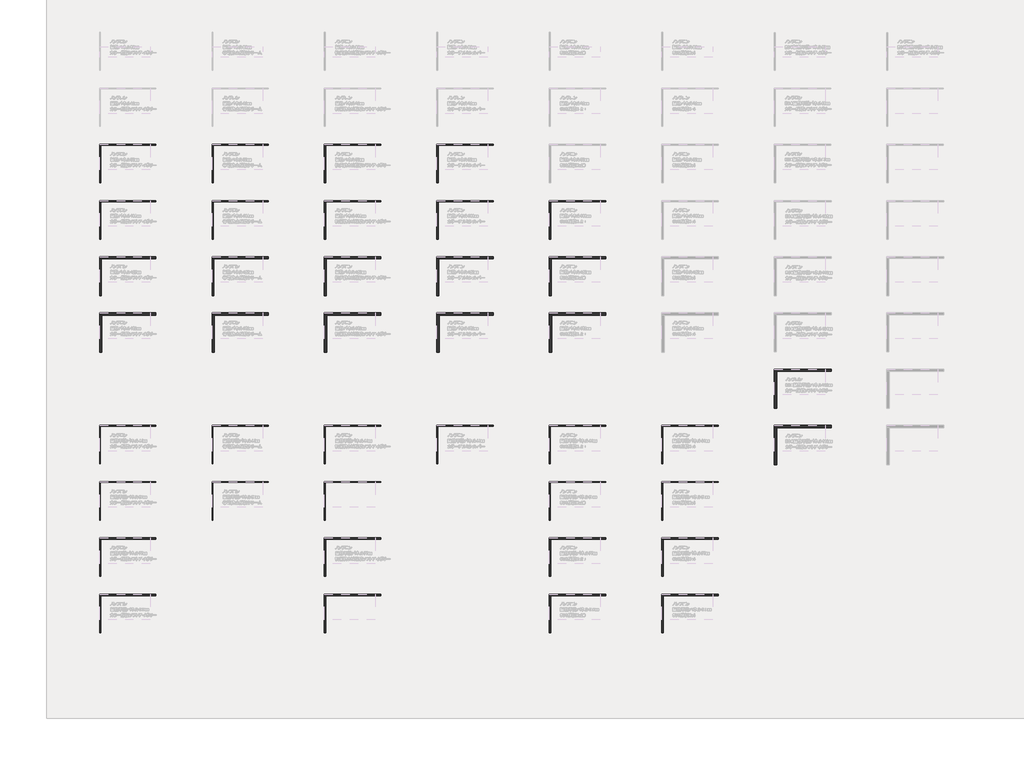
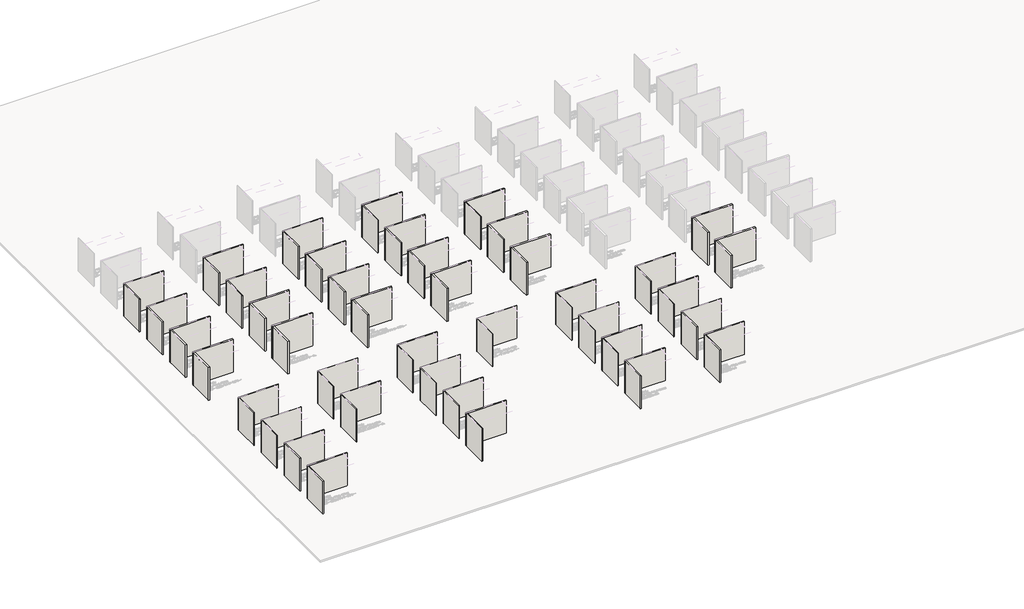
# One storey, part 1 of 117: 80 walls.
"""IFC4 building model written with IfcOpenShell, lengths in millimetres."""

from ifc_helpers import new_model, si_unit, frame, origin, place, context, project, spatial, polyline, outline, extrude, faceted_brep, element, save

model = new_model("IFC4")

# Units and contexts
model_context = context("Model", 3, world=origin())
ifc_project = project(units=[si_unit("LENGTHUNIT", "METRE", prefix="MILLI")], contexts=[model_context])

# Site, building, storey
site = spatial("IfcSite", under=ifc_project)
building = spatial("IfcBuilding", under=site)
storey = spatial("IfcBuildingStorey", under=building, Name="レベル 1", Elevation=500.0)

# Walls
placement = place(None, origin())
element("IfcWall", 1, ObjectType="g-p_断熱パネル(フラット)t77", at=placement, inside=storey, context=model_context, shape_type="Brep", body=[
    faceted_brep([(-24000.0, -77.0, 500.0), (-23923.0, -77.0, 500.0), (-20000.0, -77.0, 500.0), (-20000.0, -77.0, 4000.0), (-23923.0, -77.0, 4000.0), (-24000.0, -77.0, 4000.0), (-24000.0, 0.0, 500.0), (-24000.0, 0.0, 4000.0), (-20000.0, 0.0, 4000.0), (-20000.0, 0.0, 500.0)], [[[0, 1, 2, 3, 4, 5]], [[6, 7, 8, 9]], [[2, 1, 0, 6, 9]], [[3, 2, 9, 8]], [[5, 4, 3, 8, 7]], [[0, 5, 7, 6]]]),
])
element("IfcWall", 2, ObjectType="g-p_断熱パネル(フラット)t77", at=placement, inside=storey, context=model_context, shape_type="SweptSolid", body=[
    extrude(outline(polyline([(-24000.0, -2738.5), (-24000.0, -77.0), (-23923.0, -77.0), (-23923.0, -2738.5), (-24000.0, -2738.5)])), frame((0.0, 0.0, 500.0), z_axis=(0.0, 0.0, 1.0), x_axis=(1.0, 0.0, 0.0)), (0.0, 0.0, 1.0), 3500.0),
])
element("IfcWall", 3, ObjectType="g-p_断熱パネル(フラット)t100", at=placement, inside=storey, context=model_context, shape_type="Brep", body=[
    faceted_brep([(-24000.0, -4100.0, 500.0), (-23900.0, -4100.0, 500.0), (-20000.0, -4100.0, 500.0), (-20000.0, -4100.0, 4000.0), (-23900.0, -4100.0, 4000.0), (-24000.0, -4100.0, 4000.0), (-24000.0, -4000.0, 500.0), (-24000.0, -4000.0, 4000.0), (-20000.0, -4000.0, 4000.0), (-20000.0, -4000.0, 500.0)], [[[0, 1, 2, 3, 4, 5]], [[6, 7, 8, 9]], [[2, 1, 0, 6, 9]], [[3, 2, 9, 8]], [[5, 4, 3, 8, 7]], [[0, 5, 7, 6]]]),
])
element("IfcWall", 4, ObjectType="g-p_断熱パネル(フラット)t100", at=placement, inside=storey, context=model_context, shape_type="SweptSolid", body=[
    extrude(outline(polyline([(-24000.0, -6750.0), (-24000.0, -4100.0), (-23900.0, -4100.0), (-23900.0, -6750.0), (-24000.0, -6750.0)])), frame((0.0, 0.0, 500.0), z_axis=(0.0, 0.0, 1.0), x_axis=(1.0, 0.0, 0.0)), (0.0, 0.0, 1.0), 3500.0),
])
element("IfcWall", 5, ObjectType="g-p_断熱パネル(フラット)t127", at=placement, inside=storey, context=model_context, shape_type="Brep", body=[
    faceted_brep([(-24000.0, -8127.0, 500.0), (-23873.0, -8127.0, 500.0), (-20000.0, -8127.0, 500.0), (-20000.0, -8127.0, 4000.0), (-23873.0, -8127.0, 4000.0), (-24000.0, -8127.0, 4000.0), (-24000.0, -8000.0, 500.0), (-24000.0, -8000.0, 4000.0), (-20000.0, -8000.0, 4000.0), (-20000.0, -8000.0, 500.0)], [[[0, 1, 2, 3, 4, 5]], [[6, 7, 8, 9]], [[2, 1, 0, 6, 9]], [[3, 2, 9, 8]], [[5, 4, 3, 8, 7]], [[0, 5, 7, 6]]]),
])
element("IfcWall", 6, ObjectType="g-p_断熱パネル(フラット)t127", at=placement, inside=storey, context=model_context, shape_type="SweptSolid", body=[
    extrude(outline(polyline([(-24000.0, -10763.5), (-24000.0, -8127.0), (-23873.0, -8127.0), (-23873.0, -10763.5), (-24000.0, -10763.5)])), frame((0.0, 0.0, 500.0), z_axis=(0.0, 0.0, 1.0), x_axis=(1.0, 0.0, 0.0)), (0.0, 0.0, 1.0), 3500.0),
])
element("IfcWall", 7, ObjectType="g-p_断熱パネル(フラット)t152", at=placement, inside=storey, context=model_context, shape_type="Brep", body=[
    faceted_brep([(-24000.0, -12152.0, 500.0), (-23848.0, -12152.0, 500.0), (-20000.0, -12152.0, 500.0), (-20000.0, -12152.0, 4000.0), (-23848.0, -12152.0, 4000.0), (-24000.0, -12152.0, 4000.0), (-24000.0, -12000.0, 500.0), (-24000.0, -12000.0, 4000.0), (-20000.0, -12000.0, 4000.0), (-20000.0, -12000.0, 500.0)], [[[0, 1, 2, 3, 4, 5]], [[6, 7, 8, 9]], [[2, 1, 0, 6, 9]], [[3, 2, 9, 8]], [[5, 4, 3, 8, 7]], [[0, 5, 7, 6]]]),
])
element("IfcWall", 8, ObjectType="g-p_断熱パネル(フラット)t152", at=placement, inside=storey, context=model_context, shape_type="SweptSolid", body=[
    extrude(outline(polyline([(-24000.0, -14776.0), (-24000.0, -12152.0), (-23848.0, -12152.0), (-23848.0, -14776.0), (-24000.0, -14776.0)])), frame((0.0, 0.0, 500.0), z_axis=(0.0, 0.0, 1.0), x_axis=(1.0, 0.0, 0.0)), (0.0, 0.0, 1.0), 3500.0),
])
element("IfcWall", 9, ObjectType="g-p_不燃断熱パネル(フラット)t44", at=placement, inside=storey, context=model_context, shape_type="Brep", body=[
    faceted_brep([(-24000.0, -20044.0, 500.0), (-23956.0, -20044.0, 500.0), (-20000.0, -20044.0, 500.0), (-20000.0, -20044.0, 4000.0), (-23956.0, -20044.0, 4000.0), (-24000.0, -20044.0, 4000.0), (-24000.0, -20000.0, 500.0), (-24000.0, -20000.0, 4000.0), (-20000.0, -20000.0, 4000.0), (-20000.0, -20000.0, 500.0)], [[[0, 1, 2, 3, 4, 5]], [[6, 7, 8, 9]], [[2, 1, 0, 6, 9]], [[3, 2, 9, 8]], [[5, 4, 3, 8, 7]], [[0, 5, 7, 6]]]),
])
element("IfcWall", 10, ObjectType="g-p_不燃断熱パネル(フラット)t44", at=placement, inside=storey, context=model_context, shape_type="SweptSolid", body=[
    extrude(outline(polyline([(-24000.0, -22722.0), (-24000.0, -20044.0), (-23956.0, -20044.0), (-23956.0, -22722.0), (-24000.0, -22722.0)])), frame((0.0, 0.0, 500.0), z_axis=(0.0, 0.0, 1.0), x_axis=(1.0, 0.0, 0.0)), (0.0, 0.0, 1.0), 3500.0),
])
element("IfcWall", 11, ObjectType="g-p_不燃断熱パネル(フラット)t50", at=placement, inside=storey, context=model_context, shape_type="Brep", body=[
    faceted_brep([(-24000.0, -24050.0, 500.0), (-23950.0, -24050.0, 500.0), (-20000.0, -24050.0, 500.0), (-20000.0, -24050.0, 4000.0), (-23950.0, -24050.0, 4000.0), (-24000.0, -24050.0, 4000.0), (-24000.0, -24000.0, 500.0), (-24000.0, -24000.0, 4000.0), (-20000.0, -24000.0, 4000.0), (-20000.0, -24000.0, 500.0)], [[[0, 1, 2, 3, 4, 5]], [[6, 7, 8, 9]], [[2, 1, 0, 6, 9]], [[3, 2, 9, 8]], [[5, 4, 3, 8, 7]], [[0, 5, 7, 6]]]),
])
element("IfcWall", 12, ObjectType="g-p_不燃断熱パネル(フラット)t50", at=placement, inside=storey, context=model_context, shape_type="SweptSolid", body=[
    extrude(outline(polyline([(-24000.0, -26725.0), (-24000.0, -24050.0), (-23950.0, -24050.0), (-23950.0, -26725.0), (-24000.0, -26725.0)])), frame((0.0, 0.0, 500.0), z_axis=(0.0, 0.0, 1.0), x_axis=(1.0, 0.0, 0.0)), (0.0, 0.0, 1.0), 3500.0),
])
element("IfcWall", 13, ObjectType="g-p_不燃断熱パネル(フラット)t77", at=placement, inside=storey, context=model_context, shape_type="Brep", body=[
    faceted_brep([(-24000.0, -28077.0, 500.0), (-23923.0, -28077.0, 500.0), (-20000.0, -28077.0, 500.0), (-20000.0, -28077.0, 4000.0), (-23923.0, -28077.0, 4000.0), (-24000.0, -28077.0, 4000.0), (-24000.0, -28000.0, 500.0), (-24000.0, -28000.0, 4000.0), (-20000.0, -28000.0, 4000.0), (-20000.0, -28000.0, 500.0)], [[[0, 1, 2, 3, 4, 5]], [[6, 7, 8, 9]], [[2, 1, 0, 6, 9]], [[3, 2, 9, 8]], [[5, 4, 3, 8, 7]], [[0, 5, 7, 6]]]),
])
element("IfcWall", 14, ObjectType="g-p_不燃断熱パネル(フラット)t77", at=placement, inside=storey, context=model_context, shape_type="SweptSolid", body=[
    extrude(outline(polyline([(-24000.0, -30738.5), (-24000.0, -28077.0), (-23923.0, -28077.0), (-23923.0, -30738.5), (-24000.0, -30738.5)])), frame((0.0, 0.0, 500.0), z_axis=(0.0, 0.0, 1.0), x_axis=(1.0, 0.0, 0.0)), (0.0, 0.0, 1.0), 3500.0),
])
element("IfcWall", 15, ObjectType="g-p_不燃断熱パネル(フラット)t100", at=placement, inside=storey, context=model_context, shape_type="Brep", body=[
    faceted_brep([(-24000.0, -32100.0, 500.0), (-23900.0, -32100.0, 500.0), (-20000.0, -32100.0, 500.0), (-20000.0, -32100.0, 4000.0), (-23900.0, -32100.0, 4000.0), (-24000.0, -32100.0, 4000.0), (-24000.0, -32000.0, 500.0), (-24000.0, -32000.0, 4000.0), (-20000.0, -32000.0, 4000.0), (-20000.0, -32000.0, 500.0)], [[[0, 1, 2, 3, 4, 5]], [[6, 7, 8, 9]], [[2, 1, 0, 6, 9]], [[3, 2, 9, 8]], [[5, 4, 3, 8, 7]], [[0, 5, 7, 6]]]),
])
element("IfcWall", 16, ObjectType="g-p_不燃断熱パネル(フラット)t100", at=placement, inside=storey, context=model_context, shape_type="SweptSolid", body=[
    extrude(outline(polyline([(-24000.0, -34750.0), (-24000.0, -32100.0), (-23900.0, -32100.0), (-23900.0, -34750.0), (-24000.0, -34750.0)])), frame((0.0, 0.0, 500.0), z_axis=(0.0, 0.0, 1.0), x_axis=(1.0, 0.0, 0.0)), (0.0, 0.0, 1.0), 3500.0),
])
element("IfcWall", 17, ObjectType="g-p_断熱パネル(フラット)t77", at=placement, inside=storey, context=model_context, shape_type="Brep", body=[
    faceted_brep([(-16000.0, -77.0, 500.0), (-15923.0, -77.0, 500.0), (-12000.0, -77.0, 500.0), (-12000.0, -77.0, 4000.0), (-15923.0, -77.0, 4000.0), (-16000.0, -77.0, 4000.0), (-16000.0, 0.0, 500.0), (-16000.0, 0.0, 4000.0), (-12000.0, 0.0, 4000.0), (-12000.0, 0.0, 500.0)], [[[0, 1, 2, 3, 4, 5]], [[6, 7, 8, 9]], [[2, 1, 0, 6, 9]], [[3, 2, 9, 8]], [[5, 4, 3, 8, 7]], [[0, 5, 7, 6]]]),
])
element("IfcWall", 18, ObjectType="g-p_断熱パネル(フラット)t77", at=placement, inside=storey, context=model_context, shape_type="SweptSolid", body=[
    extrude(outline(polyline([(-16000.0, -2738.5), (-16000.0, -77.0), (-15923.0, -77.0), (-15923.0, -2738.5), (-16000.0, -2738.5)])), frame((0.0, 0.0, 500.0), z_axis=(0.0, 0.0, 1.0), x_axis=(1.0, 0.0, 0.0)), (0.0, 0.0, 1.0), 3500.0),
])
element("IfcWall", 19, ObjectType="g-p_断熱パネル(フラット)t100", at=placement, inside=storey, context=model_context, shape_type="Brep", body=[
    faceted_brep([(-16000.0, -4100.0, 500.0), (-15900.0, -4100.0, 500.0), (-12000.0, -4100.0, 500.0), (-12000.0, -4100.0, 4000.0), (-15900.0, -4100.0, 4000.0), (-16000.0, -4100.0, 4000.0), (-16000.0, -4000.0, 500.0), (-16000.0, -4000.0, 4000.0), (-12000.0, -4000.0, 4000.0), (-12000.0, -4000.0, 500.0)], [[[0, 1, 2, 3, 4, 5]], [[6, 7, 8, 9]], [[2, 1, 0, 6, 9]], [[3, 2, 9, 8]], [[5, 4, 3, 8, 7]], [[0, 5, 7, 6]]]),
])
element("IfcWall", 20, ObjectType="g-p_断熱パネル(フラット)t100", at=placement, inside=storey, context=model_context, shape_type="SweptSolid", body=[
    extrude(outline(polyline([(-16000.0, -6750.0), (-16000.0, -4100.0), (-15900.0, -4100.0), (-15900.0, -6750.0), (-16000.0, -6750.0)])), frame((0.0, 0.0, 500.0), z_axis=(0.0, 0.0, 1.0), x_axis=(1.0, 0.0, 0.0)), (0.0, 0.0, 1.0), 3500.0),
])
element("IfcWall", 21, ObjectType="g-p_断熱パネル(フラット)t127", at=placement, inside=storey, context=model_context, shape_type="Brep", body=[
    faceted_brep([(-16000.0, -8127.0, 500.0), (-15873.0, -8127.0, 500.0), (-12000.0, -8127.0, 500.0), (-12000.0, -8127.0, 4000.0), (-15873.0, -8127.0, 4000.0), (-16000.0, -8127.0, 4000.0), (-16000.0, -8000.0, 500.0), (-16000.0, -8000.0, 4000.0), (-12000.0, -8000.0, 4000.0), (-12000.0, -8000.0, 500.0)], [[[0, 1, 2, 3, 4, 5]], [[6, 7, 8, 9]], [[2, 1, 0, 6, 9]], [[3, 2, 9, 8]], [[5, 4, 3, 8, 7]], [[0, 5, 7, 6]]]),
])
element("IfcWall", 22, ObjectType="g-p_断熱パネル(フラット)t127", at=placement, inside=storey, context=model_context, shape_type="SweptSolid", body=[
    extrude(outline(polyline([(-16000.0, -10763.5), (-16000.0, -8127.0), (-15873.0, -8127.0), (-15873.0, -10763.5), (-16000.0, -10763.5)])), frame((0.0, 0.0, 500.0), z_axis=(0.0, 0.0, 1.0), x_axis=(1.0, 0.0, 0.0)), (0.0, 0.0, 1.0), 3500.0),
])
element("IfcWall", 23, ObjectType="g-p_断熱パネル(フラット)t152", at=placement, inside=storey, context=model_context, shape_type="Brep", body=[
    faceted_brep([(-16000.0, -12152.0, 500.0), (-15848.0, -12152.0, 500.0), (-12000.0, -12152.0, 500.0), (-12000.0, -12152.0, 4000.0), (-15848.0, -12152.0, 4000.0), (-16000.0, -12152.0, 4000.0), (-16000.0, -12000.0, 500.0), (-16000.0, -12000.0, 4000.0), (-12000.0, -12000.0, 4000.0), (-12000.0, -12000.0, 500.0)], [[[0, 1, 2, 3, 4, 5]], [[6, 7, 8, 9]], [[2, 1, 0, 6, 9]], [[3, 2, 9, 8]], [[5, 4, 3, 8, 7]], [[0, 5, 7, 6]]]),
])
element("IfcWall", 24, ObjectType="g-p_断熱パネル(フラット)t152", at=placement, inside=storey, context=model_context, shape_type="SweptSolid", body=[
    extrude(outline(polyline([(-16000.0, -14776.0), (-16000.0, -12152.0), (-15848.0, -12152.0), (-15848.0, -14776.0), (-16000.0, -14776.0)])), frame((0.0, 0.0, 500.0), z_axis=(0.0, 0.0, 1.0), x_axis=(1.0, 0.0, 0.0)), (0.0, 0.0, 1.0), 3500.0),
])
element("IfcWall", 25, ObjectType="g-p_不燃断熱パネル(フラット)t44", at=placement, inside=storey, context=model_context, shape_type="Brep", body=[
    faceted_brep([(-16000.0, -20044.0, 500.0), (-15956.0, -20044.0, 500.0), (-12000.0, -20044.0, 500.0), (-12000.0, -20044.0, 4000.0), (-15956.0, -20044.0, 4000.0), (-16000.0, -20044.0, 4000.0), (-16000.0, -20000.0, 500.0), (-16000.0, -20000.0, 4000.0), (-12000.0, -20000.0, 4000.0), (-12000.0, -20000.0, 500.0)], [[[0, 1, 2, 3, 4, 5]], [[6, 7, 8, 9]], [[2, 1, 0, 6, 9]], [[3, 2, 9, 8]], [[5, 4, 3, 8, 7]], [[0, 5, 7, 6]]]),
])
element("IfcWall", 26, ObjectType="g-p_不燃断熱パネル(フラット)t44", at=placement, inside=storey, context=model_context, shape_type="SweptSolid", body=[
    extrude(outline(polyline([(-16000.0, -22722.0), (-16000.0, -20044.0), (-15956.0, -20044.0), (-15956.0, -22722.0), (-16000.0, -22722.0)])), frame((0.0, 0.0, 500.0), z_axis=(0.0, 0.0, 1.0), x_axis=(1.0, 0.0, 0.0)), (0.0, 0.0, 1.0), 3500.0),
])
element("IfcWall", 27, ObjectType="g-p_不燃断熱パネル(フラット)t50", at=placement, inside=storey, context=model_context, shape_type="Brep", body=[
    faceted_brep([(-16000.0, -24050.0, 500.0), (-15950.0, -24050.0, 500.0), (-12000.0, -24050.0, 500.0), (-12000.0, -24050.0, 4000.0), (-15950.0, -24050.0, 4000.0), (-16000.0, -24050.0, 4000.0), (-16000.0, -24000.0, 500.0), (-16000.0, -24000.0, 4000.0), (-12000.0, -24000.0, 4000.0), (-12000.0, -24000.0, 500.0)], [[[0, 1, 2, 3, 4, 5]], [[6, 7, 8, 9]], [[2, 1, 0, 6, 9]], [[3, 2, 9, 8]], [[5, 4, 3, 8, 7]], [[0, 5, 7, 6]]]),
])
element("IfcWall", 28, ObjectType="g-p_不燃断熱パネル(フラット)t50", at=placement, inside=storey, context=model_context, shape_type="SweptSolid", body=[
    extrude(outline(polyline([(-16000.0, -26725.0), (-16000.0, -24050.0), (-15950.0, -24050.0), (-15950.0, -26725.0), (-16000.0, -26725.0)])), frame((0.0, 0.0, 500.0), z_axis=(0.0, 0.0, 1.0), x_axis=(1.0, 0.0, 0.0)), (0.0, 0.0, 1.0), 3500.0),
])
element("IfcWall", 29, ObjectType="g-p_断熱パネル(フラット)t77", at=placement, inside=storey, context=model_context, shape_type="Brep", body=[
    faceted_brep([(-8000.0, -77.0, 500.0), (-7923.0, -77.0, 500.0), (-4000.0, -77.0, 500.0), (-4000.0, -77.0, 4000.0), (-7923.0, -77.0, 4000.0), (-8000.0, -77.0, 4000.0), (-8000.0, 0.0, 500.0), (-8000.0, 0.0, 4000.0), (-4000.0, 0.0, 4000.0), (-4000.0, 0.0, 500.0)], [[[0, 1, 2, 3, 4, 5]], [[6, 7, 8, 9]], [[2, 1, 0, 6, 9]], [[3, 2, 9, 8]], [[5, 4, 3, 8, 7]], [[0, 5, 7, 6]]]),
])
element("IfcWall", 30, ObjectType="g-p_断熱パネル(フラット)t77", at=placement, inside=storey, context=model_context, shape_type="SweptSolid", body=[
    extrude(outline(polyline([(-8000.0, -2738.5), (-8000.0, -77.0), (-7923.0, -77.0), (-7923.0, -2738.5), (-8000.0, -2738.5)])), frame((0.0, 0.0, 500.0), z_axis=(0.0, 0.0, 1.0), x_axis=(1.0, 0.0, 0.0)), (0.0, 0.0, 1.0), 3500.0),
])
element("IfcWall", 31, ObjectType="g-p_断熱パネル(フラット)t100", at=placement, inside=storey, context=model_context, shape_type="Brep", body=[
    faceted_brep([(-8000.0, -4100.0, 500.0), (-7900.0, -4100.0, 500.0), (-4000.0, -4100.0, 500.0), (-4000.0, -4100.0, 4000.0), (-7900.0, -4100.0, 4000.0), (-8000.0, -4100.0, 4000.0), (-8000.0, -4000.0, 500.0), (-8000.0, -4000.0, 4000.0), (-4000.0, -4000.0, 4000.0), (-4000.0, -4000.0, 500.0)], [[[0, 1, 2, 3, 4, 5]], [[6, 7, 8, 9]], [[2, 1, 0, 6, 9]], [[3, 2, 9, 8]], [[5, 4, 3, 8, 7]], [[0, 5, 7, 6]]]),
])
element("IfcWall", 32, ObjectType="g-p_断熱パネル(フラット)t100", at=placement, inside=storey, context=model_context, shape_type="SweptSolid", body=[
    extrude(outline(polyline([(-8000.0, -6750.0), (-8000.0, -4100.0), (-7900.0, -4100.0), (-7900.0, -6750.0), (-8000.0, -6750.0)])), frame((0.0, 0.0, 500.0), z_axis=(0.0, 0.0, 1.0), x_axis=(1.0, 0.0, 0.0)), (0.0, 0.0, 1.0), 3500.0),
])
element("IfcWall", 33, ObjectType="g-p_断熱パネル(フラット)t127", at=placement, inside=storey, context=model_context, shape_type="Brep", body=[
    faceted_brep([(-8000.0, -8127.0, 500.0), (-7873.0, -8127.0, 500.0), (-4000.0, -8127.0, 500.0), (-4000.0, -8127.0, 4000.0), (-7873.0, -8127.0, 4000.0), (-8000.0, -8127.0, 4000.0), (-8000.0, -8000.0, 500.0), (-8000.0, -8000.0, 4000.0), (-4000.0, -8000.0, 4000.0), (-4000.0, -8000.0, 500.0)], [[[0, 1, 2, 3, 4, 5]], [[6, 7, 8, 9]], [[2, 1, 0, 6, 9]], [[3, 2, 9, 8]], [[5, 4, 3, 8, 7]], [[0, 5, 7, 6]]]),
])
element("IfcWall", 34, ObjectType="g-p_断熱パネル(フラット)t127", at=placement, inside=storey, context=model_context, shape_type="SweptSolid", body=[
    extrude(outline(polyline([(-8000.0, -10763.5), (-8000.0, -8127.0), (-7873.0, -8127.0), (-7873.0, -10763.5), (-8000.0, -10763.5)])), frame((0.0, 0.0, 500.0), z_axis=(0.0, 0.0, 1.0), x_axis=(1.0, 0.0, 0.0)), (0.0, 0.0, 1.0), 3500.0),
])
element("IfcWall", 35, ObjectType="g-p_断熱パネル(フラット)t152", at=placement, inside=storey, context=model_context, shape_type="Brep", body=[
    faceted_brep([(-8000.0, -12152.0, 500.0), (-7848.0, -12152.0, 500.0), (-4000.0, -12152.0, 500.0), (-4000.0, -12152.0, 4000.0), (-7848.0, -12152.0, 4000.0), (-8000.0, -12152.0, 4000.0), (-8000.0, -12000.0, 500.0), (-8000.0, -12000.0, 4000.0), (-4000.0, -12000.0, 4000.0), (-4000.0, -12000.0, 500.0)], [[[0, 1, 2, 3, 4, 5]], [[6, 7, 8, 9]], [[2, 1, 0, 6, 9]], [[3, 2, 9, 8]], [[5, 4, 3, 8, 7]], [[0, 5, 7, 6]]]),
])
element("IfcWall", 36, ObjectType="g-p_断熱パネル(フラット)t152", at=placement, inside=storey, context=model_context, shape_type="SweptSolid", body=[
    extrude(outline(polyline([(-8000.0, -14776.0), (-8000.0, -12152.0), (-7848.0, -12152.0), (-7848.0, -14776.0), (-8000.0, -14776.0)])), frame((0.0, 0.0, 500.0), z_axis=(0.0, 0.0, 1.0), x_axis=(1.0, 0.0, 0.0)), (0.0, 0.0, 1.0), 3500.0),
])
element("IfcWall", 37, ObjectType="g-p_不燃断熱パネル(フラット)t44", at=placement, inside=storey, context=model_context, shape_type="Brep", body=[
    faceted_brep([(-8000.0, -20044.0, 500.0), (-7956.0, -20044.0, 500.0), (-4000.0, -20044.0, 500.0), (-4000.0, -20044.0, 4000.0), (-7956.0, -20044.0, 4000.0), (-8000.0, -20044.0, 4000.0), (-8000.0, -20000.0, 500.0), (-8000.0, -20000.0, 4000.0), (-4000.0, -20000.0, 4000.0), (-4000.0, -20000.0, 500.0)], [[[0, 1, 2, 3, 4, 5]], [[6, 7, 8, 9]], [[2, 1, 0, 6, 9]], [[3, 2, 9, 8]], [[5, 4, 3, 8, 7]], [[0, 5, 7, 6]]]),
])
element("IfcWall", 38, ObjectType="g-p_不燃断熱パネル(フラット)t44", at=placement, inside=storey, context=model_context, shape_type="SweptSolid", body=[
    extrude(outline(polyline([(-8000.0, -22722.0), (-8000.0, -20044.0), (-7956.0, -20044.0), (-7956.0, -22722.0), (-8000.0, -22722.0)])), frame((0.0, 0.0, 500.0), z_axis=(0.0, 0.0, 1.0), x_axis=(1.0, 0.0, 0.0)), (0.0, 0.0, 1.0), 3500.0),
])
element("IfcWall", 39, ObjectType="g-p_不燃断熱パネル(フラット)t50", at=placement, inside=storey, context=model_context, shape_type="Brep", body=[
    faceted_brep([(-8000.0, -24050.0, 500.0), (-7950.0, -24050.0, 500.0), (-4000.0, -24050.0, 500.0), (-4000.0, -24050.0, 4000.0), (-7950.0, -24050.0, 4000.0), (-8000.0, -24050.0, 4000.0), (-8000.0, -24000.0, 500.0), (-8000.0, -24000.0, 4000.0), (-4000.0, -24000.0, 4000.0), (-4000.0, -24000.0, 500.0)], [[[0, 1, 2, 3, 4, 5]], [[6, 7, 8, 9]], [[2, 1, 0, 6, 9]], [[3, 2, 9, 8]], [[5, 4, 3, 8, 7]], [[0, 5, 7, 6]]]),
])
element("IfcWall", 40, ObjectType="g-p_不燃断熱パネル(フラット)t50", at=placement, inside=storey, context=model_context, shape_type="SweptSolid", body=[
    extrude(outline(polyline([(-8000.0, -26725.0), (-8000.0, -24050.0), (-7950.0, -24050.0), (-7950.0, -26725.0), (-8000.0, -26725.0)])), frame((0.0, 0.0, 500.0), z_axis=(0.0, 0.0, 1.0), x_axis=(1.0, 0.0, 0.0)), (0.0, 0.0, 1.0), 3500.0),
])
element("IfcWall", 41, ObjectType="g-p_不燃断熱パネル(フラット)t77", at=placement, inside=storey, context=model_context, shape_type="Brep", body=[
    faceted_brep([(-8000.0, -28077.0, 500.0), (-7923.0, -28077.0, 500.0), (-4000.0, -28077.0, 500.0), (-4000.0, -28077.0, 4000.0), (-7923.0, -28077.0, 4000.0), (-8000.0, -28077.0, 4000.0), (-8000.0, -28000.0, 500.0), (-8000.0, -28000.0, 4000.0), (-4000.0, -28000.0, 4000.0), (-4000.0, -28000.0, 500.0)], [[[0, 1, 2, 3, 4, 5]], [[6, 7, 8, 9]], [[2, 1, 0, 6, 9]], [[3, 2, 9, 8]], [[5, 4, 3, 8, 7]], [[0, 5, 7, 6]]]),
])
element("IfcWall", 42, ObjectType="g-p_不燃断熱パネル(フラット)t77", at=placement, inside=storey, context=model_context, shape_type="SweptSolid", body=[
    extrude(outline(polyline([(-8000.0, -30738.5), (-8000.0, -28077.0), (-7923.0, -28077.0), (-7923.0, -30738.5), (-8000.0, -30738.5)])), frame((0.0, 0.0, 500.0), z_axis=(0.0, 0.0, 1.0), x_axis=(1.0, 0.0, 0.0)), (0.0, 0.0, 1.0), 3500.0),
])
element("IfcWall", 43, ObjectType="g-p_不燃断熱パネル(フラット)t100", at=placement, inside=storey, context=model_context, shape_type="Brep", body=[
    faceted_brep([(-8000.0, -32100.0, 500.0), (-7900.0, -32100.0, 500.0), (-4000.0, -32100.0, 500.0), (-4000.0, -32100.0, 4000.0), (-7900.0, -32100.0, 4000.0), (-8000.0, -32100.0, 4000.0), (-8000.0, -32000.0, 500.0), (-8000.0, -32000.0, 4000.0), (-4000.0, -32000.0, 4000.0), (-4000.0, -32000.0, 500.0)], [[[0, 1, 2, 3, 4, 5]], [[6, 7, 8, 9]], [[2, 1, 0, 6, 9]], [[3, 2, 9, 8]], [[5, 4, 3, 8, 7]], [[0, 5, 7, 6]]]),
])
element("IfcWall", 44, ObjectType="g-p_不燃断熱パネル(フラット)t100", at=placement, inside=storey, context=model_context, shape_type="SweptSolid", body=[
    extrude(outline(polyline([(-8000.0, -34750.0), (-8000.0, -32100.0), (-7900.0, -32100.0), (-7900.0, -34750.0), (-8000.0, -34750.0)])), frame((0.0, 0.0, 500.0), z_axis=(0.0, 0.0, 1.0), x_axis=(1.0, 0.0, 0.0)), (0.0, 0.0, 1.0), 3500.0),
])
element("IfcWall", 45, ObjectType="g-p_断熱パネル(フラット)t77", at=placement, inside=storey, context=model_context, shape_type="Brep", body=[
    faceted_brep([(0.0, -77.0, 500.0), (77.0, -77.0, 500.0), (4000.0, -77.0, 500.0), (4000.0, -77.0, 4000.0), (77.0, -77.0, 4000.0), (0.0, -77.0, 4000.0), (0.0, 0.0, 500.0), (0.0, 0.0, 4000.0), (4000.0, 0.0, 4000.0), (4000.0, 0.0, 500.0)], [[[0, 1, 2, 3, 4, 5]], [[6, 7, 8, 9]], [[2, 1, 0, 6, 9]], [[3, 2, 9, 8]], [[5, 4, 3, 8, 7]], [[0, 5, 7, 6]]]),
])
element("IfcWall", 46, ObjectType="g-p_断熱パネル(フラット)t77", at=placement, inside=storey, context=model_context, shape_type="SweptSolid", body=[
    extrude(outline(polyline([(0.0, -2738.5), (0.0, -77.0), (77.0, -77.0), (77.0, -2738.5), (0.0, -2738.5)])), frame((0.0, 0.0, 500.0), z_axis=(0.0, 0.0, 1.0), x_axis=(1.0, 0.0, 0.0)), (0.0, 0.0, 1.0), 3500.0),
])
element("IfcWall", 47, ObjectType="g-p_断熱パネル(フラット)t100", at=placement, inside=storey, context=model_context, shape_type="Brep", body=[
    faceted_brep([(0.0, -4100.0, 500.0), (100.0, -4100.0, 500.0), (4000.0, -4100.0, 500.0), (4000.0, -4100.0, 4000.0), (100.0, -4100.0, 4000.0), (0.0, -4100.0, 4000.0), (0.0, -4000.0, 500.0), (0.0, -4000.0, 4000.0), (4000.0, -4000.0, 4000.0), (4000.0, -4000.0, 500.0)], [[[0, 1, 2, 3, 4, 5]], [[6, 7, 8, 9]], [[2, 1, 0, 6, 9]], [[3, 2, 9, 8]], [[5, 4, 3, 8, 7]], [[0, 5, 7, 6]]]),
])
element("IfcWall", 48, ObjectType="g-p_断熱パネル(フラット)t100", at=placement, inside=storey, context=model_context, shape_type="SweptSolid", body=[
    extrude(outline(polyline([(0.0, -6750.0), (0.0, -4100.0), (100.0, -4100.0), (100.0, -6750.0), (0.0, -6750.0)])), frame((0.0, 0.0, 500.0), z_axis=(0.0, 0.0, 1.0), x_axis=(1.0, 0.0, 0.0)), (0.0, 0.0, 1.0), 3500.0),
])
element("IfcWall", 49, ObjectType="g-p_断熱パネル(フラット)t127", at=placement, inside=storey, context=model_context, shape_type="Brep", body=[
    faceted_brep([(0.0, -8127.0, 500.0), (127.0, -8127.0, 500.0), (4000.0, -8127.0, 500.0), (4000.0, -8127.0, 4000.0), (127.0, -8127.0, 4000.0), (0.0, -8127.0, 4000.0), (0.0, -8000.0, 500.0), (0.0, -8000.0, 4000.0), (4000.0, -8000.0, 4000.0), (4000.0, -8000.0, 500.0)], [[[0, 1, 2, 3, 4, 5]], [[6, 7, 8, 9]], [[2, 1, 0, 6, 9]], [[3, 2, 9, 8]], [[5, 4, 3, 8, 7]], [[0, 5, 7, 6]]]),
])
element("IfcWall", 50, ObjectType="g-p_断熱パネル(フラット)t127", at=placement, inside=storey, context=model_context, shape_type="SweptSolid", body=[
    extrude(outline(polyline([(0.0, -10763.5), (0.0, -8127.0), (127.0, -8127.0), (127.0, -10763.5), (0.0, -10763.5)])), frame((0.0, 0.0, 500.0), z_axis=(0.0, 0.0, 1.0), x_axis=(1.0, 0.0, 0.0)), (0.0, 0.0, 1.0), 3500.0),
])
element("IfcWall", 51, ObjectType="g-p_断熱パネル(フラット)t152", at=placement, inside=storey, context=model_context, shape_type="Brep", body=[
    faceted_brep([(0.0, -12152.0, 500.0), (152.0, -12152.0, 500.0), (4000.0, -12152.0, 500.0), (4000.0, -12152.0, 4000.0), (152.0, -12152.0, 4000.0), (0.0, -12152.0, 4000.0), (0.0, -12000.0, 500.0), (0.0, -12000.0, 4000.0), (4000.0, -12000.0, 4000.0), (4000.0, -12000.0, 500.0)], [[[0, 1, 2, 3, 4, 5]], [[6, 7, 8, 9]], [[2, 1, 0, 6, 9]], [[3, 2, 9, 8]], [[5, 4, 3, 8, 7]], [[0, 5, 7, 6]]]),
])
element("IfcWall", 52, ObjectType="g-p_断熱パネル(フラット)t152", at=placement, inside=storey, context=model_context, shape_type="SweptSolid", body=[
    extrude(outline(polyline([(0.0, -14776.0), (0.0, -12152.0), (152.0, -12152.0), (152.0, -14776.0), (0.0, -14776.0)])), frame((0.0, 0.0, 500.0), z_axis=(0.0, 0.0, 1.0), x_axis=(1.0, 0.0, 0.0)), (0.0, 0.0, 1.0), 3500.0),
])
element("IfcWall", 53, ObjectType="g-p_不燃断熱パネル(フラット)t44", at=placement, inside=storey, context=model_context, shape_type="Brep", body=[
    faceted_brep([(0.0, -20044.0, 500.0), (44.0, -20044.0, 500.0), (4000.0, -20044.0, 500.0), (4000.0, -20044.0, 4000.0), (44.0, -20044.0, 4000.0), (0.0, -20044.0, 4000.0), (0.0, -20000.0, 500.0), (0.0, -20000.0, 4000.0), (4000.0, -20000.0, 4000.0), (4000.0, -20000.0, 500.0)], [[[0, 1, 2, 3, 4, 5]], [[6, 7, 8, 9]], [[2, 1, 0, 6, 9]], [[3, 2, 9, 8]], [[5, 4, 3, 8, 7]], [[0, 5, 7, 6]]]),
])
element("IfcWall", 54, ObjectType="g-p_不燃断熱パネル(フラット)t44", at=placement, inside=storey, context=model_context, shape_type="SweptSolid", body=[
    extrude(outline(polyline([(0.0, -22722.0), (0.0, -20044.0), (44.0, -20044.0), (44.0, -22722.0), (0.0, -22722.0)])), frame((0.0, 0.0, 500.0), z_axis=(0.0, 0.0, 1.0), x_axis=(1.0, 0.0, 0.0)), (0.0, 0.0, 1.0), 3500.0),
])
element("IfcWall", 55, ObjectType="g-p_断熱パネル(フラット)t100", at=placement, inside=storey, context=model_context, shape_type="Brep", body=[
    faceted_brep([(8000.0, -4100.0, 500.0), (8100.0, -4100.0, 500.0), (12000.0, -4100.0, 500.0), (12000.0, -4100.0, 4000.0), (8100.0, -4100.0, 4000.0), (8000.0, -4100.0, 4000.0), (8000.0, -4000.0, 500.0), (8000.0, -4000.0, 4000.0), (12000.0, -4000.0, 4000.0), (12000.0, -4000.0, 500.0)], [[[0, 1, 2, 3, 4, 5]], [[6, 7, 8, 9]], [[2, 1, 0, 6, 9]], [[3, 2, 9, 8]], [[5, 4, 3, 8, 7]], [[0, 5, 7, 6]]]),
])
element("IfcWall", 56, ObjectType="g-p_断熱パネル(フラット)t100", at=placement, inside=storey, context=model_context, shape_type="SweptSolid", body=[
    extrude(outline(polyline([(8000.0, -6750.0), (8000.0, -4100.0), (8100.0, -4100.0), (8100.0, -6750.0), (8000.0, -6750.0)])), frame((0.0, 0.0, 500.0), z_axis=(0.0, 0.0, 1.0), x_axis=(1.0, 0.0, 0.0)), (0.0, 0.0, 1.0), 3500.0),
])
element("IfcWall", 57, ObjectType="g-p_断熱パネル(フラット)t127", at=placement, inside=storey, context=model_context, shape_type="Brep", body=[
    faceted_brep([(8000.0, -8127.0, 500.0), (8127.0, -8127.0, 500.0), (12000.0, -8127.0, 500.0), (12000.0, -8127.0, 4000.0), (8127.0, -8127.0, 4000.0), (8000.0, -8127.0, 4000.0), (8000.0, -8000.0, 500.0), (8000.0, -8000.0, 4000.0), (12000.0, -8000.0, 4000.0), (12000.0, -8000.0, 500.0)], [[[0, 1, 2, 3, 4, 5]], [[6, 7, 8, 9]], [[2, 1, 0, 6, 9]], [[3, 2, 9, 8]], [[5, 4, 3, 8, 7]], [[0, 5, 7, 6]]]),
])
element("IfcWall", 58, ObjectType="g-p_断熱パネル(フラット)t127", at=placement, inside=storey, context=model_context, shape_type="SweptSolid", body=[
    extrude(outline(polyline([(8000.0, -10763.5), (8000.0, -8127.0), (8127.0, -8127.0), (8127.0, -10763.5), (8000.0, -10763.5)])), frame((0.0, 0.0, 500.0), z_axis=(0.0, 0.0, 1.0), x_axis=(1.0, 0.0, 0.0)), (0.0, 0.0, 1.0), 3500.0),
])
element("IfcWall", 59, ObjectType="g-p_断熱パネル(フラット)t152", at=placement, inside=storey, context=model_context, shape_type="Brep", body=[
    faceted_brep([(8000.0, -12152.0, 500.0), (8152.0, -12152.0, 500.0), (12000.0, -12152.0, 500.0), (12000.0, -12152.0, 4000.0), (8152.0, -12152.0, 4000.0), (8000.0, -12152.0, 4000.0), (8000.0, -12000.0, 500.0), (8000.0, -12000.0, 4000.0), (12000.0, -12000.0, 4000.0), (12000.0, -12000.0, 500.0)], [[[0, 1, 2, 3, 4, 5]], [[6, 7, 8, 9]], [[2, 1, 0, 6, 9]], [[3, 2, 9, 8]], [[5, 4, 3, 8, 7]], [[0, 5, 7, 6]]]),
])
element("IfcWall", 60, ObjectType="g-p_断熱パネル(フラット)t152", at=placement, inside=storey, context=model_context, shape_type="SweptSolid", body=[
    extrude(outline(polyline([(8000.0, -14776.0), (8000.0, -12152.0), (8152.0, -12152.0), (8152.0, -14776.0), (8000.0, -14776.0)])), frame((0.0, 0.0, 500.0), z_axis=(0.0, 0.0, 1.0), x_axis=(1.0, 0.0, 0.0)), (0.0, 0.0, 1.0), 3500.0),
])
element("IfcWall", 61, ObjectType="g-p_不燃断熱パネル(フラット)t44", at=placement, inside=storey, context=model_context, shape_type="Brep", body=[
    faceted_brep([(8000.0, -20044.0, 500.0), (8044.0, -20044.0, 500.0), (12000.0, -20044.0, 500.0), (12000.0, -20044.0, 4000.0), (8044.0, -20044.0, 4000.0), (8000.0, -20044.0, 4000.0), (8000.0, -20000.0, 500.0), (8000.0, -20000.0, 4000.0), (12000.0, -20000.0, 4000.0), (12000.0, -20000.0, 500.0)], [[[0, 1, 2, 3, 4, 5]], [[6, 7, 8, 9]], [[2, 1, 0, 6, 9]], [[3, 2, 9, 8]], [[5, 4, 3, 8, 7]], [[0, 5, 7, 6]]]),
])
element("IfcWall", 62, ObjectType="g-p_不燃断熱パネル(フラット)t44", at=placement, inside=storey, context=model_context, shape_type="SweptSolid", body=[
    extrude(outline(polyline([(8000.0, -22722.0), (8000.0, -20044.0), (8044.0, -20044.0), (8044.0, -22722.0), (8000.0, -22722.0)])), frame((0.0, 0.0, 500.0), z_axis=(0.0, 0.0, 1.0), x_axis=(1.0, 0.0, 0.0)), (0.0, 0.0, 1.0), 3500.0),
])
element("IfcWall", 63, ObjectType="g-p_不燃断熱パネル(フラット)t50", at=placement, inside=storey, context=model_context, shape_type="Brep", body=[
    faceted_brep([(8000.0, -24050.0, 500.0), (8050.0, -24050.0, 500.0), (12000.0, -24050.0, 500.0), (12000.0, -24050.0, 4000.0), (8050.0, -24050.0, 4000.0), (8000.0, -24050.0, 4000.0), (8000.0, -24000.0, 500.0), (8000.0, -24000.0, 4000.0), (12000.0, -24000.0, 4000.0), (12000.0, -24000.0, 500.0)], [[[0, 1, 2, 3, 4, 5]], [[6, 7, 8, 9]], [[2, 1, 0, 6, 9]], [[3, 2, 9, 8]], [[5, 4, 3, 8, 7]], [[0, 5, 7, 6]]]),
])
element("IfcWall", 64, ObjectType="g-p_不燃断熱パネル(フラット)t50", at=placement, inside=storey, context=model_context, shape_type="SweptSolid", body=[
    extrude(outline(polyline([(8000.0, -26725.0), (8000.0, -24050.0), (8050.0, -24050.0), (8050.0, -26725.0), (8000.0, -26725.0)])), frame((0.0, 0.0, 500.0), z_axis=(0.0, 0.0, 1.0), x_axis=(1.0, 0.0, 0.0)), (0.0, 0.0, 1.0), 3500.0),
])
element("IfcWall", 65, ObjectType="g-p_不燃断熱パネル(フラット)t77", at=placement, inside=storey, context=model_context, shape_type="Brep", body=[
    faceted_brep([(8000.0, -28077.0, 500.0), (8077.0, -28077.0, 500.0), (12000.0, -28077.0, 500.0), (12000.0, -28077.0, 4000.0), (8077.0, -28077.0, 4000.0), (8000.0, -28077.0, 4000.0), (8000.0, -28000.0, 500.0), (8000.0, -28000.0, 4000.0), (12000.0, -28000.0, 4000.0), (12000.0, -28000.0, 500.0)], [[[0, 1, 2, 3, 4, 5]], [[6, 7, 8, 9]], [[2, 1, 0, 6, 9]], [[3, 2, 9, 8]], [[5, 4, 3, 8, 7]], [[0, 5, 7, 6]]]),
])
element("IfcWall", 66, ObjectType="g-p_不燃断熱パネル(フラット)t77", at=placement, inside=storey, context=model_context, shape_type="SweptSolid", body=[
    extrude(outline(polyline([(8000.0, -30738.5), (8000.0, -28077.0), (8077.0, -28077.0), (8077.0, -30738.5), (8000.0, -30738.5)])), frame((0.0, 0.0, 500.0), z_axis=(0.0, 0.0, 1.0), x_axis=(1.0, 0.0, 0.0)), (0.0, 0.0, 1.0), 3500.0),
])
element("IfcWall", 67, ObjectType="g-p_不燃断熱パネル(フラット)t100", at=placement, inside=storey, context=model_context, shape_type="Brep", body=[
    faceted_brep([(8000.0, -32100.0, 500.0), (8100.0, -32100.0, 500.0), (12000.0, -32100.0, 500.0), (12000.0, -32100.0, 4000.0), (8100.0, -32100.0, 4000.0), (8000.0, -32100.0, 4000.0), (8000.0, -32000.0, 500.0), (8000.0, -32000.0, 4000.0), (12000.0, -32000.0, 4000.0), (12000.0, -32000.0, 500.0)], [[[0, 1, 2, 3, 4, 5]], [[6, 7, 8, 9]], [[2, 1, 0, 6, 9]], [[3, 2, 9, 8]], [[5, 4, 3, 8, 7]], [[0, 5, 7, 6]]]),
])
element("IfcWall", 68, ObjectType="g-p_不燃断熱パネル(フラット)t100", at=placement, inside=storey, context=model_context, shape_type="SweptSolid", body=[
    extrude(outline(polyline([(8000.0, -34750.0), (8000.0, -32100.0), (8100.0, -32100.0), (8100.0, -34750.0), (8000.0, -34750.0)])), frame((0.0, 0.0, 500.0), z_axis=(0.0, 0.0, 1.0), x_axis=(1.0, 0.0, 0.0)), (0.0, 0.0, 1.0), 3500.0),
])
element("IfcWall", 69, ObjectType="g-p_不燃断熱パネル(フラット)t44", at=placement, inside=storey, context=model_context, shape_type="Brep", body=[
    faceted_brep([(16000.0, -20044.0, 500.0), (16044.0, -20044.0, 500.0), (20000.0, -20044.0, 500.0), (20000.0, -20044.0, 4000.0), (16044.0, -20044.0, 4000.0), (16000.0, -20044.0, 4000.0), (16000.0, -20000.0, 500.0), (16000.0, -20000.0, 4000.0), (20000.0, -20000.0, 4000.0), (20000.0, -20000.0, 500.0)], [[[0, 1, 2, 3, 4, 5]], [[6, 7, 8, 9]], [[2, 1, 0, 6, 9]], [[3, 2, 9, 8]], [[5, 4, 3, 8, 7]], [[0, 5, 7, 6]]]),
])
element("IfcWall", 70, ObjectType="g-p_不燃断熱パネル(フラット)t44", at=placement, inside=storey, context=model_context, shape_type="SweptSolid", body=[
    extrude(outline(polyline([(16000.0, -22722.0), (16000.0, -20044.0), (16044.0, -20044.0), (16044.0, -22722.0), (16000.0, -22722.0)])), frame((0.0, 0.0, 500.0), z_axis=(0.0, 0.0, 1.0), x_axis=(1.0, 0.0, 0.0)), (0.0, 0.0, 1.0), 3500.0),
])
element("IfcWall", 71, ObjectType="g-p_不燃断熱パネル(フラット)t50", at=placement, inside=storey, context=model_context, shape_type="Brep", body=[
    faceted_brep([(16000.0, -24050.0, 500.0), (16050.0, -24050.0, 500.0), (20000.0, -24050.0, 500.0), (20000.0, -24050.0, 4000.0), (16050.0, -24050.0, 4000.0), (16000.0, -24050.0, 4000.0), (16000.0, -24000.0, 500.0), (16000.0, -24000.0, 4000.0), (20000.0, -24000.0, 4000.0), (20000.0, -24000.0, 500.0)], [[[0, 1, 2, 3, 4, 5]], [[6, 7, 8, 9]], [[2, 1, 0, 6, 9]], [[3, 2, 9, 8]], [[5, 4, 3, 8, 7]], [[0, 5, 7, 6]]]),
])
element("IfcWall", 72, ObjectType="g-p_不燃断熱パネル(フラット)t50", at=placement, inside=storey, context=model_context, shape_type="SweptSolid", body=[
    extrude(outline(polyline([(16000.0, -26725.0), (16000.0, -24050.0), (16050.0, -24050.0), (16050.0, -26725.0), (16000.0, -26725.0)])), frame((0.0, 0.0, 500.0), z_axis=(0.0, 0.0, 1.0), x_axis=(1.0, 0.0, 0.0)), (0.0, 0.0, 1.0), 3500.0),
])
element("IfcWall", 73, ObjectType="g-p_不燃断熱パネル(フラット)t77", at=placement, inside=storey, context=model_context, shape_type="Brep", body=[
    faceted_brep([(16000.0, -28077.0, 500.0), (16077.0, -28077.0, 500.0), (20000.0, -28077.0, 500.0), (20000.0, -28077.0, 4000.0), (16077.0, -28077.0, 4000.0), (16000.0, -28077.0, 4000.0), (16000.0, -28000.0, 500.0), (16000.0, -28000.0, 4000.0), (20000.0, -28000.0, 4000.0), (20000.0, -28000.0, 500.0)], [[[0, 1, 2, 3, 4, 5]], [[6, 7, 8, 9]], [[2, 1, 0, 6, 9]], [[3, 2, 9, 8]], [[5, 4, 3, 8, 7]], [[0, 5, 7, 6]]]),
])
element("IfcWall", 74, ObjectType="g-p_不燃断熱パネル(フラット)t77", at=placement, inside=storey, context=model_context, shape_type="SweptSolid", body=[
    extrude(outline(polyline([(16000.0, -30738.5), (16000.0, -28077.0), (16077.0, -28077.0), (16077.0, -30738.5), (16000.0, -30738.5)])), frame((0.0, 0.0, 500.0), z_axis=(0.0, 0.0, 1.0), x_axis=(1.0, 0.0, 0.0)), (0.0, 0.0, 1.0), 3500.0),
])
element("IfcWall", 75, ObjectType="g-p_不燃断熱パネル(フラット)t100", at=placement, inside=storey, context=model_context, shape_type="Brep", body=[
    faceted_brep([(16000.0, -32100.0, 500.0), (16100.0, -32100.0, 500.0), (20000.0, -32100.0, 500.0), (20000.0, -32100.0, 4000.0), (16100.0, -32100.0, 4000.0), (16000.0, -32100.0, 4000.0), (16000.0, -32000.0, 500.0), (16000.0, -32000.0, 4000.0), (20000.0, -32000.0, 4000.0), (20000.0, -32000.0, 500.0)], [[[0, 1, 2, 3, 4, 5]], [[6, 7, 8, 9]], [[2, 1, 0, 6, 9]], [[3, 2, 9, 8]], [[5, 4, 3, 8, 7]], [[0, 5, 7, 6]]]),
])
element("IfcWall", 76, ObjectType="g-p_不燃断熱パネル(フラット)t100", at=placement, inside=storey, context=model_context, shape_type="SweptSolid", body=[
    extrude(outline(polyline([(16000.0, -34750.0), (16000.0, -32100.0), (16100.0, -32100.0), (16100.0, -34750.0), (16000.0, -34750.0)])), frame((0.0, 0.0, 500.0), z_axis=(0.0, 0.0, 1.0), x_axis=(1.0, 0.0, 0.0)), (0.0, 0.0, 1.0), 3500.0),
])
element("IfcWall", 77, ObjectType="g-p_ECO不燃断熱パネル(フラット)t152", at=placement, inside=storey, context=model_context, shape_type="Brep", body=[
    faceted_brep([(24000.0, -16152.0, 500.0), (24152.0, -16152.0, 500.0), (28026.0, -16152.0, 500.0), (28026.0, -16152.0, 4000.0), (24152.0, -16152.0, 4000.0), (24000.0, -16152.0, 4000.0), (24000.0, -16000.0, 500.0), (24000.0, -16000.0, 4000.0), (28026.0, -16000.0, 4000.0), (28026.0, -16000.0, 500.0)], [[[0, 1, 2, 3, 4, 5]], [[6, 7, 8, 9]], [[2, 1, 0, 6, 9]], [[3, 2, 9, 8]], [[5, 4, 3, 8, 7]], [[0, 5, 7, 6]]]),
])
element("IfcWall", 78, ObjectType="g-p_ECO不燃断熱パネル(フラット)t152", at=placement, inside=storey, context=model_context, shape_type="SweptSolid", body=[
    extrude(outline(polyline([(24000.0, -18776.0), (24000.0, -16152.0), (24152.0, -16152.0), (24152.0, -18776.0), (24000.0, -18776.0)])), frame((0.0, 0.0, 500.0), z_axis=(0.0, 0.0, 1.0), x_axis=(1.0, 0.0, 0.0)), (0.0, 0.0, 1.0), 3500.0),
])
element("IfcWall", 79, ObjectType="g-p_ECO不燃断熱パネル(フラット)t168", at=placement, inside=storey, context=model_context, shape_type="Brep", body=[
    faceted_brep([(24000.0, -20168.0, 500.0), (24168.0, -20168.0, 500.0), (28034.0, -20168.0, 500.0), (28034.0, -20168.0, 4000.0), (24168.0, -20168.0, 4000.0), (24000.0, -20168.0, 4000.0), (24000.0, -20000.0, 500.0), (24000.0, -20000.0, 4000.0), (28034.0, -20000.0, 4000.0), (28034.0, -20000.0, 500.0)], [[[0, 1, 2, 3, 4, 5]], [[6, 7, 8, 9]], [[2, 1, 0, 6, 9]], [[3, 2, 9, 8]], [[5, 4, 3, 8, 7]], [[0, 5, 7, 6]]]),
])
element("IfcWall", 80, ObjectType="g-p_ECO不燃断熱パネル(フラット)t168", at=placement, inside=storey, context=model_context, shape_type="SweptSolid", body=[
    extrude(outline(polyline([(24000.0, -22784.0), (24000.0, -20168.0), (24168.0, -20168.0), (24168.0, -22784.0), (24000.0, -22784.0)])), frame((0.0, 0.0, 500.0), z_axis=(0.0, 0.0, 1.0), x_axis=(1.0, 0.0, 0.0)), (0.0, 0.0, 1.0), 3500.0),
])

save(model, "model.ifc")
